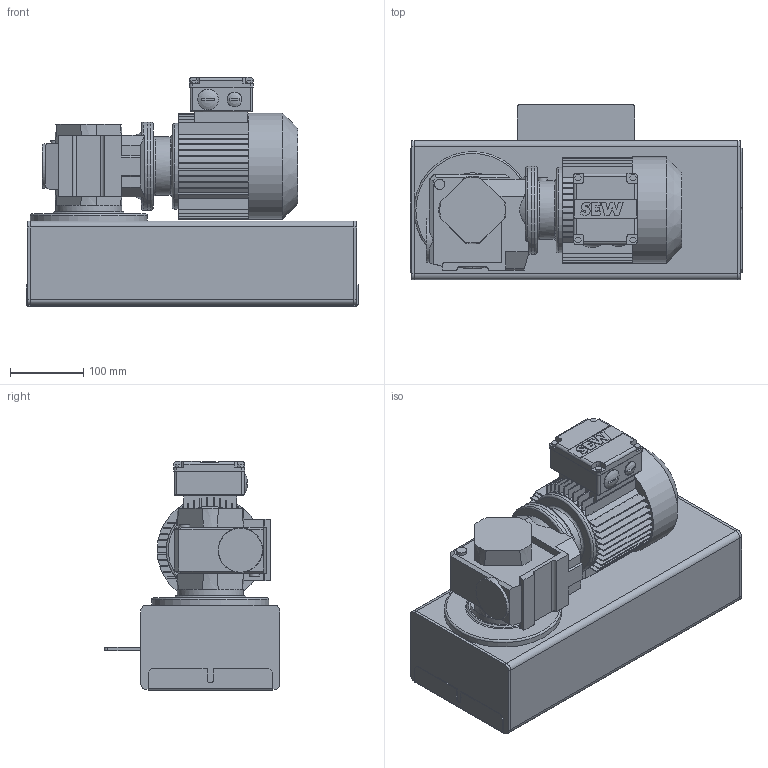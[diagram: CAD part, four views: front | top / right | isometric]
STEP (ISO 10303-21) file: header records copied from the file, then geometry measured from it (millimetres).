
FILE_DESCRIPTION((''),'2;1');
FILE_NAME('C:\Vault_Working_Folder\Designs\Inventor\Lättviktsmodeller\Maxi\IRUK 80.stp','2012-11-13T10:24:16',('martin.samuelsson'),(''),'Autodesk Inventor 2013','Autodesk Inventor 2013','');
FILE_SCHEMA(('AUTOMOTIVE_DESIGN { 1 0 10303 214 1 1 1 1 }'));
Length unit declared in the file: millimetre
Products named in the file (1): IRUK 80
Bounding box: 453 x 240 x 312.5 mm (x, y, z)
Volume: 5852902.8 mm3; surface area: 963810.3 mm2
Topology: 1 solids, 8 shells, 576 faces, 1486 edges, 980 vertices
Faces by surface type: plane 466, cylinder 84, cone 17, torus 7, sphere 2
Full cylindrical faces by diameter (mm): 6 x4, 14 x3, 20 x2, 28 x1, 80 x1, 90 x1, 116 x1, 117 x1, 120 x2, 145 x1, 160 x1
Entity records: 17987 total; most frequent: CARTESIAN_POINT 3277, ORIENTED_EDGE 2898, DIRECTION 2860, EDGE_CURVE 1449, VECTOR 1112, LINE 1112, VERTEX_POINT 971, AXIS2_PLACEMENT_3D 874
